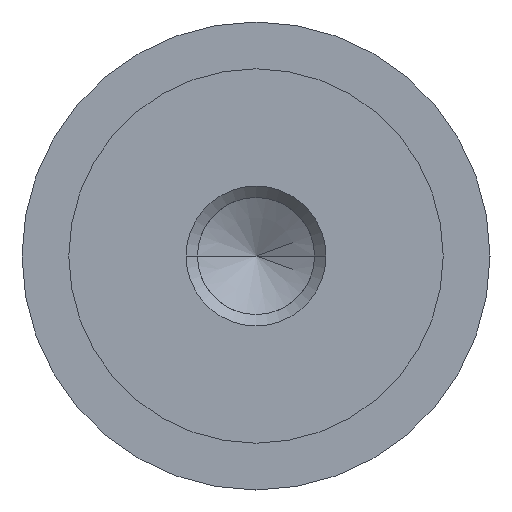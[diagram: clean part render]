
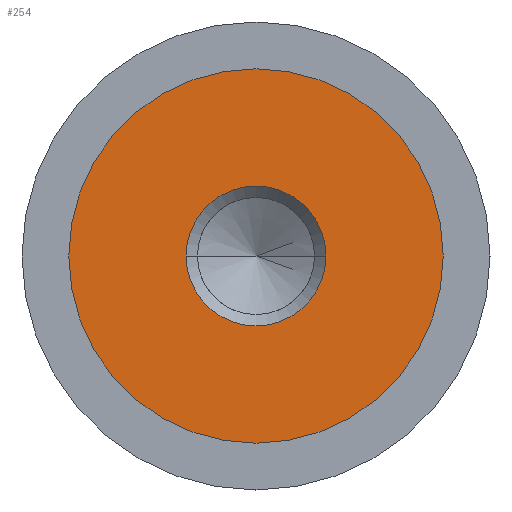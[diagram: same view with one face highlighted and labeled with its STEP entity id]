
A CAD part, left-side view. The second image highlights one B-rep face of the part: STEP entity #254.
In plain terms, the highlighted planar face has unit normal (-1, 0, 0).
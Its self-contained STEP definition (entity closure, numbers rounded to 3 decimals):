
#25 = DIRECTION ( 'NONE',  ( -1., 0., 0. ) ) ;
#52 = EDGE_CURVE ( 'NONE', #449, #737, #296, .T. ) ;
#80 = CARTESIAN_POINT ( 'NONE',  ( -9.99, 0., 8. ) ) ;
#89 = VERTEX_POINT ( 'NONE', #80 ) ;
#124 = CIRCLE ( 'NONE', #388, 2.99 ) ;
#153 = ORIENTED_EDGE ( 'NONE', *, *, #277, .T. ) ;
#158 = EDGE_LOOP ( 'NONE', ( #480, #153 ) ) ;
#160 = PLANE ( 'NONE',  #271 ) ;
#215 = CARTESIAN_POINT ( 'NONE',  ( -9.99, 8., 0. ) ) ;
#218 = CIRCLE ( 'NONE', #781, 8. ) ;
#242 = CIRCLE ( 'NONE', #671, 8. ) ;
#254 = ADVANCED_FACE ( 'NONE', ( #273, #637 ), #160, .F. ) ;
#259 = DIRECTION ( 'NONE',  ( 0., 0., 1. ) ) ;
#267 = VERTEX_POINT ( 'NONE', #647 ) ;
#271 = AXIS2_PLACEMENT_3D ( 'NONE', #215, #448, #335 ) ;
#273 = FACE_BOUND ( 'NONE', #520, .T. ) ;
#277 = EDGE_CURVE ( 'NONE', #267, #89, #242, .T. ) ;
#296 = CIRCLE ( 'NONE', #751, 2.99 ) ;
#328 = EDGE_CURVE ( 'NONE', #737, #449, #124, .T. ) ;
#335 = DIRECTION ( 'NONE',  ( 0., 0., -1. ) ) ;
#381 = CARTESIAN_POINT ( 'NONE',  ( -9.99, 0., 0. ) ) ;
#388 = AXIS2_PLACEMENT_3D ( 'NONE', #381, #586, #766 ) ;
#399 = CARTESIAN_POINT ( 'NONE',  ( -9.99, 0., 0. ) ) ;
#434 = CARTESIAN_POINT ( 'NONE',  ( -9.99, 0., 0. ) ) ;
#448 = DIRECTION ( 'NONE',  ( 1., 0., 0. ) ) ;
#449 = VERTEX_POINT ( 'NONE', #717 ) ;
#471 = ORIENTED_EDGE ( 'NONE', *, *, #328, .T. ) ;
#480 = ORIENTED_EDGE ( 'NONE', *, *, #526, .T. ) ;
#490 = DIRECTION ( 'NONE',  ( -1., 0., 0. ) ) ;
#520 = EDGE_LOOP ( 'NONE', ( #530, #471 ) ) ;
#526 = EDGE_CURVE ( 'NONE', #89, #267, #218, .T. ) ;
#530 = ORIENTED_EDGE ( 'NONE', *, *, #52, .T. ) ;
#567 = DIRECTION ( 'NONE',  ( 0., 0., -1. ) ) ;
#586 = DIRECTION ( 'NONE',  ( 1., 0., 0. ) ) ;
#626 = CARTESIAN_POINT ( 'NONE',  ( -9.99, 0., 0. ) ) ;
#637 = FACE_OUTER_BOUND ( 'NONE', #158, .T. ) ;
#647 = CARTESIAN_POINT ( 'NONE',  ( -9.99, 0., -8. ) ) ;
#671 = AXIS2_PLACEMENT_3D ( 'NONE', #399, #25, #259 ) ;
#687 = DIRECTION ( 'NONE',  ( 1., 0., 0. ) ) ;
#717 = CARTESIAN_POINT ( 'NONE',  ( -9.99, -2.99, 0. ) ) ;
#724 = CARTESIAN_POINT ( 'NONE',  ( -9.99, 2.99, 0. ) ) ;
#729 = DIRECTION ( 'NONE',  ( 0., 0., 1. ) ) ;
#737 = VERTEX_POINT ( 'NONE', #724 ) ;
#751 = AXIS2_PLACEMENT_3D ( 'NONE', #626, #687, #567 ) ;
#766 = DIRECTION ( 'NONE',  ( 0., 0., -1. ) ) ;
#781 = AXIS2_PLACEMENT_3D ( 'NONE', #434, #490, #729 ) ;
